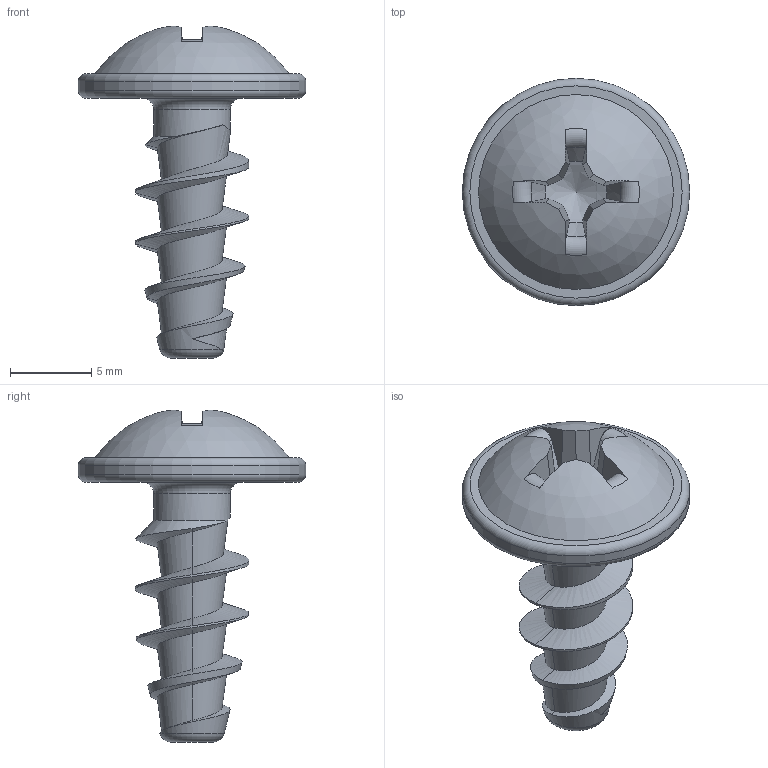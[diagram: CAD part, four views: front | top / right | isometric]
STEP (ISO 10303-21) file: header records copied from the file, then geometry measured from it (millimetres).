
FILE_DESCRIPTION(/* description */ (''),/* implementation_level */ '2;1');
FILE_NAME(/* name */ 'KN1031-Neu-STS-70x16-H3.step',/* time_stamp */ '2017-10-12T13:20:12+02:00',/* author */ (''),/* organization */ (''),/* preprocessor_version */ 'ST-DEVELOPER v16',/* originating_system */ 'SIEMENS PLM Software NX 10.0',/* authorisation */ '');
FILE_SCHEMA (('AUTOMOTIVE_DESIGN { 1 0 10303 214 3 1 1 1 }'));
Length unit declared in the file: millimetre
Products named in the file (1): KN1031-Neu-STS-70x16-H3
Bounding box: 14 x 14 x 20.44 mm (x, y, z)
Volume: 637.6 mm3; surface area: 760.4 mm2
Topology: 1 solids, 1 shells, 53 faces, 140 edges, 90 vertices
Faces by surface type: plane 19, bspline 15, torus 8, cone 7, cylinder 3, sphere 1
Full cylindrical faces by diameter (mm): 4.71 x1, 14 x1
Entity records: 2771 total; most frequent: CARTESIAN_POINT 1637, ORIENTED_EDGE 252, DIRECTION 182, EDGE_CURVE 126, VERTEX_POINT 85, AXIS2_PLACEMENT_3D 79, EDGE_LOOP 62, B_SPLINE_CURVE_WITH_KNOTS 62
